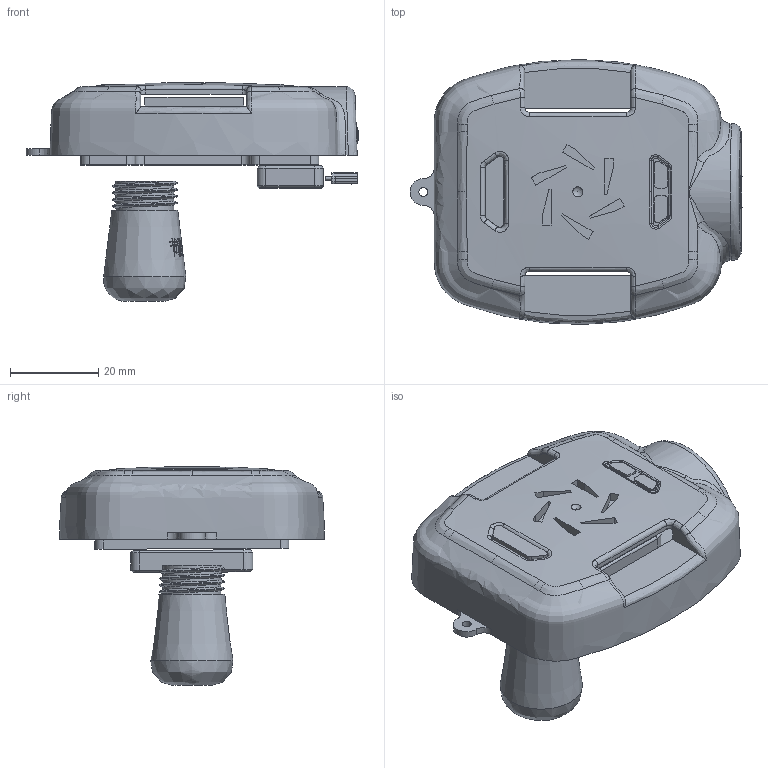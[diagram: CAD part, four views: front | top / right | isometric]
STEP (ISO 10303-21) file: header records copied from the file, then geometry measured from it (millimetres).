
FILE_DESCRIPTION(/* description */ (''),/* implementation_level */ '2;1');
FILE_NAME(/* name */ '样题5.stp',/* time_stamp */ '2023-04-15T14:58:04+08:00',/* author */ (''),/* organization */ (''),/* preprocessor_version */ 'ST-DEVELOPER v16.7',/* originating_system */ 'SIEMENS PLM Software NX 12.0',/* authorisation */ '');
FILE_SCHEMA (('AUTOMOTIVE_DESIGN { 1 0 10303 214 3 1 1 1 }'));
Products named in the file (1): 样题5 
Bounding box: 75.2 x 60.01 x 49.54 mm (x, y, z)
Volume: 31205.8 mm3; surface area: 27296.5 mm2
Topology: 12 solids, 13 shells, 1406 faces, 3772 edges, 2469 vertices
Faces by surface type: plane 826, extrusion 266, bspline 144, cylinder 143, cone 17, torus 8, sphere 2
Full cylindrical faces by diameter (mm): 0.35 x4, 0.359 x1, 0.5 x1, 0.575 x1, 0.732 x1, 0.75 x3, 0.771 x1, 2 x1, 3 x8, 6 x4
Entity records: 64635 total; most frequent: CARTESIAN_POINT 31023, ORIENTED_EDGE 7426, DIRECTION 4856, EDGE_CURVE 3713, VERTEX_POINT 2451, VECTOR 2056, LINE 1790, B_SPLINE_CURVE_WITH_KNOTS 1755
